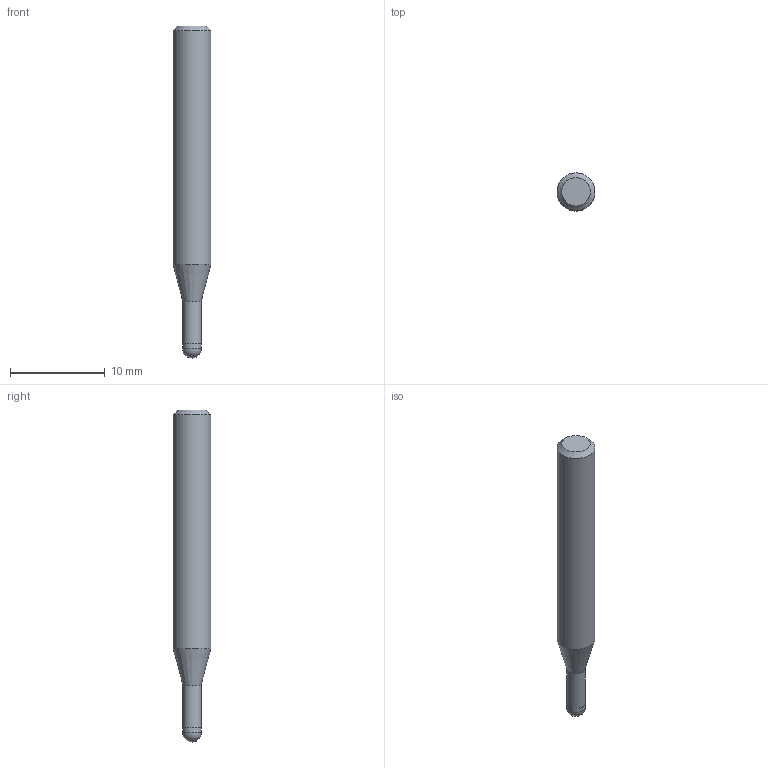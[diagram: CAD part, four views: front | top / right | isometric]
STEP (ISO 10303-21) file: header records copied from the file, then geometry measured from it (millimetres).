
FILE_DESCRIPTION((''),'2;1');
FILE_NAME('C:\Users\nsx150\AppData\Local\Temp\Mastercam 2021\QT8KEW0Y7J\TEMP.step','2021-04-23T11:21:30',(''),(''),'STEP Write','Mastercam 2021 ... CNC Software, Inc.','');
FILE_SCHEMA(('AUTOMOTIVE_DESIGN'));
Length unit declared in the file: millimetre
Products named in the file (1): None
Bounding box: 4 x 4 x 35 mm (x, y, z)
Volume: 359.3 mm3; surface area: 404.8 mm2
Topology: 2 solids, 2 shells, 9 faces, 14 edges, 8 vertices
Faces by surface type: plane 3, cylinder 3, cone 2, sphere 1
Full cylindrical faces by diameter (mm): 1.94 x1, 2 x1, 4 x1
Entity records: 211 total; most frequent: DIRECTION 36, CARTESIAN_POINT 25, AXIS2_PLACEMENT_3D 18, ORIENTED_EDGE 14, EDGE_LOOP 14, STYLED_ITEM 12, ADVANCED_FACE 9, FACE_BOUND 8
